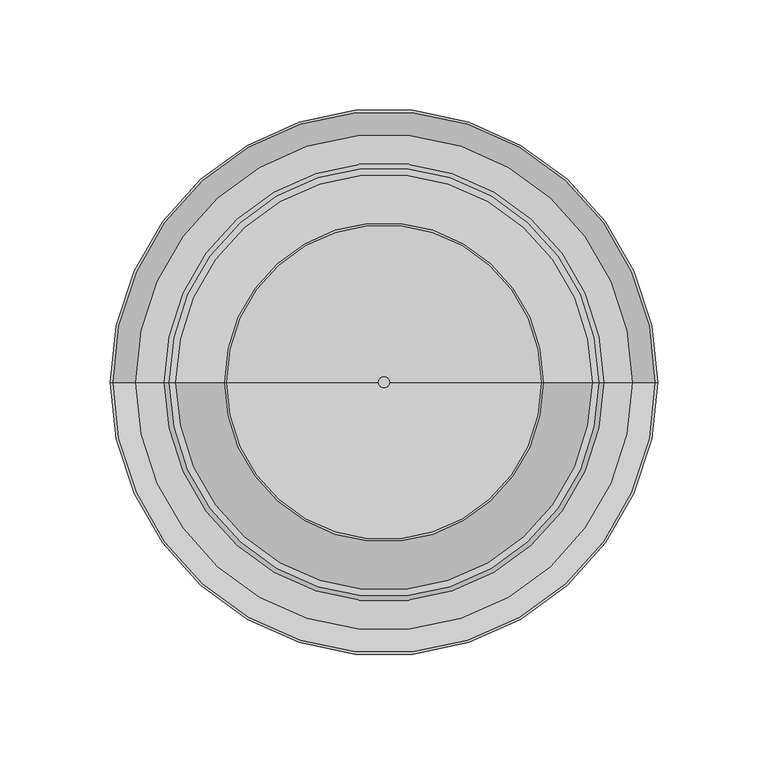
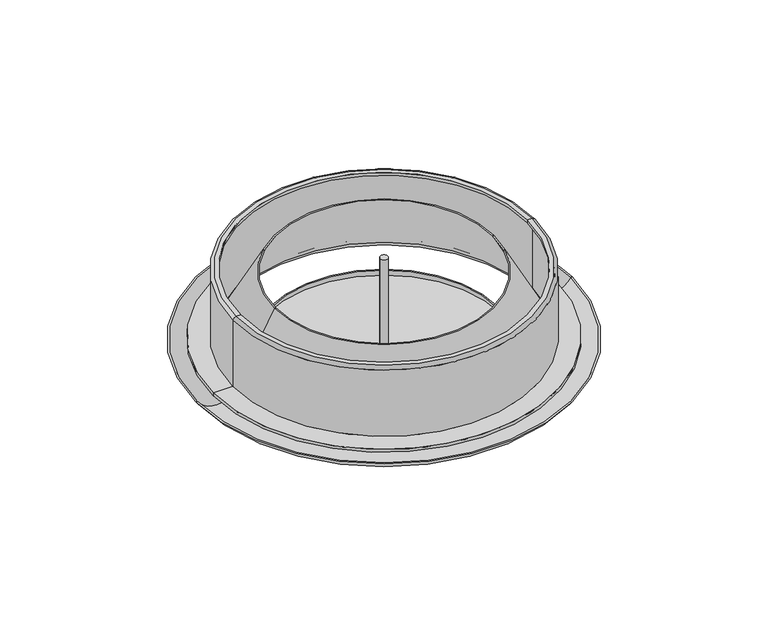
"""IFC4 building model written with IfcOpenShell, lengths in millimetres: air terminal geometry, BL_ДифузорПотолочный_Вытяжной_DVSV : BL_ДифузорПотолочный_Вытяжной_DVSV."""

from ifc_helpers import new_model, si_unit, point, frame, origin, origin_with_axes, origin_2d, place, context, project, spatial, polyline, circle_curve, ellipse_curve, trimmed, segment, composite_curve, outline, extrude, source, transform, mapped, element, save
from ifc_brep_helpers import plane_surface, cylinder_surface, revolved_surface, advanced_brep


def air_terminal_686e35e0(model_context):
    return source(origin(), model_context, "Body", "SolidModel", [
        extrude(outline(composite_curve([segment(trimmed(circle_curve(origin_2d(), 2.5), [point((-2.5, 0.0))], [point((2.5, 0.0))], False, "CARTESIAN"), True, "CONTINUOUS"), segment(trimmed(circle_curve(origin_2d(), 2.5), [point((2.5, 0.0))], [point((-2.5, 0.0))], False, "CARTESIAN"), True, "CONTINUOUS")], self_intersect=False)), frame((0.0, 0.0, -13.0), z_axis=(0.0, 0.0, 1.0), x_axis=(1.0, 0.0, 0.0)), (0.0, 0.0, 1.0), 70.0),
        advanced_brep(
        [(-75.5, 0.0, -4.0), (75.5, 0.0, -4.0), (78.5, 0.0, -10.0), (-78.5, 0.0, -10.0), (-74.5, 0.0, -4.0), (74.5, 0.0, -4.0), (-77.1443474, 0.0, -9.2886949), (77.1443474, 0.0, -9.2886949), (0.0, 0.0, -13.0), (0.0, 0.0, -14.0)],
        [
            (0, 1, circle_curve(frame((0.0, 0.0, -4.0), z_axis=(0.0, 0.0, -1.0), x_axis=(1.0, 0.0, 0.0)), 75.5)),
            (1, 2),
            (2, 3, circle_curve(frame((0.0, 0.0, -10.0), z_axis=(0.0, 0.0, 1.0), x_axis=(1.0, 0.0, 0.0)), 78.5)),
            (3, 0),
            (1, 0, circle_curve(frame((0.0, 0.0, -4.0), z_axis=(0.0, 0.0, -1.0), x_axis=(1.0, 0.0, 0.0)), 75.5)),
            (3, 2, circle_curve(frame((0.0, 0.0, -10.0), z_axis=(0.0, 0.0, 1.0), x_axis=(1.0, 0.0, 0.0)), 78.5)),
            (4, 5, circle_curve(frame((0.0, 0.0, -4.0), z_axis=(0.0, 0.0, -1.0), x_axis=(1.0, 0.0, 0.0)), 74.5)),
            (5, 1),
            (0, 4),
            (5, 4, circle_curve(frame((0.0, 0.0, -4.0), z_axis=(0.0, 0.0, -1.0), x_axis=(1.0, 0.0, 0.0)), 74.5)),
            (6, 7, circle_curve(frame((0.0, 0.0, -9.2886949), z_axis=(0.0, 0.0, -1.0), x_axis=(1.0, 0.0, 0.0)), 77.1443474)),
            (7, 5),
            (4, 6),
            (7, 6, circle_curve(frame((0.0, 0.0, -9.2886949), z_axis=(0.0, 0.0, -1.0), x_axis=(1.0, 0.0, 0.0)), 77.1443474)),
            (8, 7, circle_curve(frame((0.2171599, 0.0, 786.1149478), z_axis=(0.0, -1.0, 0.0), x_axis=(1.0, 0.0, 0.0)), 799.1149773)),
            (6, 8, circle_curve(frame((-0.2171599, 0.0, 786.1149478), z_axis=(0.0, -1.0, 0.0), x_axis=(-1.0, 0.0, 0.0)), 799.1149773)),
            (2, 9, circle_curve(frame((0.2171599, 0.0, 754.0194877), z_axis=(0.0, 1.0, 0.0), x_axis=(1.0, 0.0, 0.0)), 768.0195184)),
            (9, 3, circle_curve(frame((-0.2171599, 0.0, 754.0194877), z_axis=(0.0, 1.0, 0.0), x_axis=(-1.0, 0.0, 0.0)), 768.0195184)),
        ],
        [
            revolved_surface(polyline([(78.5, 0.0, -10.0), (75.5, 0.0, -4.0)]), (0.0, 0.0, 2831.6845746), (0.0, 0.0, 1.0)),
            plane_surface(frame((0.0, 0.0, -4.0), z_axis=(0.0, 0.0, 1.0), x_axis=(1.0, 0.0, 0.0))),
            revolved_surface(polyline([(74.5, 0.0, -4.0), (77.1443474, 0.0, -9.2886949)]), (0.0, 0.0, 2831.6845746), (0.0, 0.0, 1.0)),
            revolved_surface(trimmed(ellipse_curve(frame((0.2171599, 0.0, 786.1149478), z_axis=(0.0, 1.0, 0.0), x_axis=(1.0, 0.0, 0.0)), 799.1149773, 799.1149773), [point((77.1443474, 0.0, -9.2886949))], [point((0.0, 0.0, -13.0))], True, "CARTESIAN"), (0.0, 0.0, 2831.6845746), (0.0, 0.0, 1.0)),
            revolved_surface(trimmed(ellipse_curve(frame((0.2171599, 0.0, 754.0194877), z_axis=(0.0, -1.0, 0.0), x_axis=(1.0, 0.0, 0.0)), 768.0195184, 768.0195184), [point((0.0, 0.0, -14.0))], [point((78.5, 0.0, -10.0))], True, "CARTESIAN"), (0.0, 0.0, 2831.6845746), (0.0, 0.0, 1.0)),
        ],
        [
            (0, [[1, 2, 3, 4]]),
            (0, [[5, -4, 6, -2]]),
            (1, [[7, 8, -1, 9]]),
            (1, [[10, -9, -5, -8]]),
            (2, [[11, 12, -7, 13]]),
            (2, [[14, -13, -10, -12]]),
            (3, [[15, -11, 16]]),
            (3, [[-16, -14, -15]]),
            (4, [[-3, 17, 18]]),
            (4, [[-6, -18, -17]]),
        ],
    ),
        advanced_brep(
        [(-123.0, 0.0, 0.0), (123.0, 0.0, 0.0), (124.0, 0.0, 0.0), (-124.0, 0.0, 0.0), (-97.5, 0.0, 0.0), (97.5, 0.0, 0.0), (-72.4321616, 0.0, 47.0), (72.4321616, 0.0, 47.0), (-71.4321616, 0.0, 47.0), (71.4321616, 0.0, 47.0), (-96.5, 0.0, 0.0), (96.5, 0.0, 0.0)],
        [
            (0, 1, circle_curve(frame((0.0, 0.0, 0.0), z_axis=(0.0, 0.0, -1.0), x_axis=(1.0, 0.0, 0.0)), 123.0)),
            (1, 2),
            (2, 3, circle_curve(origin_with_axes(), 124.0)),
            (3, 0),
            (1, 0, circle_curve(frame((0.0, 0.0, 0.0), z_axis=(0.0, 0.0, -1.0), x_axis=(1.0, 0.0, 0.0)), 123.0)),
            (3, 2, circle_curve(origin_with_axes(), 124.0)),
            (4, 5, circle_curve(frame((0.0, 0.0, 0.0), z_axis=(0.0, 0.0, -1.0), x_axis=(1.0, 0.0, 0.0)), 97.5)),
            (5, 1, circle_curve(frame((110.25, 0.0, 7.9888848), z_axis=(0.0, -1.0, 0.0), x_axis=(1.0, 0.0, 0.0)), 15.0460885)),
            (0, 4, circle_curve(frame((-110.25, 0.0, 7.9888848), z_axis=(0.0, -1.0, 0.0), x_axis=(-1.0, 0.0, 0.0)), 15.0460885)),
            (5, 4, circle_curve(frame((0.0, 0.0, 0.0), z_axis=(0.0, 0.0, -1.0), x_axis=(1.0, 0.0, 0.0)), 97.5)),
            (6, 7, circle_curve(frame((0.0, 0.0, 47.0), z_axis=(0.0, 0.0, -1.0), x_axis=(1.0, 0.0, 0.0)), 72.4321616)),
            (7, 5),
            (4, 6),
            (7, 6, circle_curve(frame((0.0, 0.0, 47.0), z_axis=(0.0, 0.0, -1.0), x_axis=(1.0, 0.0, 0.0)), 72.4321616)),
            (8, 9, circle_curve(frame((0.0, 0.0, 47.0), z_axis=(0.0, 0.0, -1.0), x_axis=(1.0, 0.0, 0.0)), 71.4321616)),
            (9, 7),
            (6, 8),
            (9, 8, circle_curve(frame((0.0, 0.0, 47.0), z_axis=(0.0, 0.0, -1.0), x_axis=(1.0, 0.0, 0.0)), 71.4321616)),
            (10, 11, circle_curve(frame((0.0, 0.0, 0.0), z_axis=(0.0, 0.0, -1.0), x_axis=(1.0, 0.0, 0.0)), 96.5)),
            (11, 9),
            (8, 10),
            (11, 10, circle_curve(frame((0.0, 0.0, 0.0), z_axis=(0.0, 0.0, -1.0), x_axis=(1.0, 0.0, 0.0)), 96.5)),
            (2, 11, circle_curve(frame((110.25, 0.0, 7.5317993), z_axis=(0.0, 1.0, 0.0), x_axis=(1.0, 0.0, 0.0)), 15.6777071)),
            (10, 3, circle_curve(frame((-110.25, 0.0, 7.5317993), z_axis=(0.0, 1.0, 0.0), x_axis=(-1.0, 0.0, 0.0)), 15.6777071)),
        ],
        [
            plane_surface(origin_with_axes()),
            revolved_surface(trimmed(ellipse_curve(frame((110.25, 0.0, 7.9888848), z_axis=(0.0, 1.0, 0.0), x_axis=(1.0, 0.0, 0.0)), 15.0460885, 15.0460885), [point((123.0, 0.0, 0.0))], [point((97.5, 0.0, 0.0))], True, "CARTESIAN"), (0.0, 0.0, 2831.6845746), (0.0, 0.0, 1.0)),
            revolved_surface(polyline([(97.5, 0.0, 0.0), (72.4321616, 0.0, 47.0)]), (0.0, 0.0, 2831.6845746), (0.0, 0.0, 1.0)),
            plane_surface(frame((0.0, 0.0, 47.0), z_axis=(0.0, 0.0, 1.0), x_axis=(1.0, 0.0, 0.0))),
            revolved_surface(polyline([(71.4321616, 0.0, 47.0), (96.5, 0.0, 0.0)]), (0.0, 0.0, 2831.6845746), (0.0, 0.0, 1.0)),
            revolved_surface(trimmed(ellipse_curve(frame((110.25, 0.0, 7.5317993), z_axis=(0.0, -1.0, 0.0), x_axis=(1.0, 0.0, 0.0)), 15.6777071, 15.6777071), [point((96.5, 0.0, 0.0))], [point((124.0, 0.0, 0.0))], True, "CARTESIAN"), (0.0, 0.0, 2831.6845746), (0.0, 0.0, 1.0)),
        ],
        [
            (0, [[1, 2, 3, 4]]),
            (0, [[5, -4, 6, -2]]),
            (1, [[7, 8, -1, 9]]),
            (1, [[10, -9, -5, -8]]),
            (2, [[11, 12, -7, 13]]),
            (2, [[14, -13, -10, -12]]),
            (3, [[15, 16, -11, 17]]),
            (3, [[18, -17, -14, -16]]),
            (4, [[19, 20, -15, 21]]),
            (4, [[22, -21, -18, -20]]),
            (5, [[-3, 23, -19, 24]]),
            (5, [[-6, -24, -22, -23]]),
        ],
    ),
        advanced_brep(
        [(-99.5, 0.0, 48.0), (99.5, 0.0, 48.0), (99.5, 0.0, 2.0), (-99.5, 0.0, 2.0), (-97.5, 0.0, 50.0), (97.5, 0.0, 50.0), (-94.5, 0.0, 50.0), (94.5, 0.0, 50.0), (-94.5, 0.0, 48.0), (94.5, 0.0, 48.0), (-97.5, 0.0, 48.0), (97.5, 0.0, 48.0), (-97.5, 0.0, 2.0), (97.5, 0.0, 2.0), (-99.5, 0.0, 0.0), (99.5, 0.0, 0.0), (-112.5, 0.0, 0.0), (112.5, 0.0, 0.0), (-112.5, 0.0, 2.0), (112.5, 0.0, 2.0)],
        [
            (0, 1, circle_curve(frame((0.0, 0.0, 48.0), z_axis=(0.0, 0.0, -1.0), x_axis=(1.0, 0.0, 0.0)), 99.5)),
            (1, 2),
            (2, 3, circle_curve(frame((0.0, 0.0, 2.0), z_axis=(0.0, 0.0, 1.0), x_axis=(1.0, 0.0, 0.0)), 99.5)),
            (3, 0),
            (1, 0, circle_curve(frame((0.0, 0.0, 48.0), z_axis=(0.0, 0.0, -1.0), x_axis=(1.0, 0.0, 0.0)), 99.5)),
            (3, 2, circle_curve(frame((0.0, 0.0, 2.0), z_axis=(0.0, 0.0, 1.0), x_axis=(1.0, 0.0, 0.0)), 99.5)),
            (4, 5, circle_curve(frame((0.0, 0.0, 50.0), z_axis=(0.0, 0.0, -1.0), x_axis=(1.0, 0.0, 0.0)), 97.5)),
            (5, 1, circle_curve(frame((97.5, 0.0, 48.0), z_axis=(0.0, 1.0, 0.0), x_axis=(1.0, 0.0, 0.0)), 2.0)),
            (0, 4, circle_curve(frame((-97.5, 0.0, 48.0), z_axis=(0.0, 1.0, 0.0), x_axis=(-1.0, 0.0, 0.0)), 2.0)),
            (5, 4, circle_curve(frame((0.0, 0.0, 50.0), z_axis=(0.0, 0.0, -1.0), x_axis=(1.0, 0.0, 0.0)), 97.5)),
            (6, 7, circle_curve(frame((0.0, 0.0, 50.0), z_axis=(0.0, 0.0, -1.0), x_axis=(1.0, 0.0, 0.0)), 94.5)),
            (7, 5),
            (4, 6),
            (7, 6, circle_curve(frame((0.0, 0.0, 50.0), z_axis=(0.0, 0.0, -1.0), x_axis=(1.0, 0.0, 0.0)), 94.5)),
            (8, 9, circle_curve(frame((0.0, 0.0, 48.0), z_axis=(0.0, 0.0, -1.0), x_axis=(1.0, 0.0, 0.0)), 94.5)),
            (9, 7),
            (6, 8),
            (9, 8, circle_curve(frame((0.0, 0.0, 48.0), z_axis=(0.0, 0.0, -1.0), x_axis=(1.0, 0.0, 0.0)), 94.5)),
            (10, 11, circle_curve(frame((0.0, 0.0, 48.0), z_axis=(0.0, 0.0, -1.0), x_axis=(1.0, 0.0, 0.0)), 97.5)),
            (11, 9),
            (8, 10),
            (11, 10, circle_curve(frame((0.0, 0.0, 48.0), z_axis=(0.0, 0.0, -1.0), x_axis=(1.0, 0.0, 0.0)), 97.5)),
            (12, 13, circle_curve(frame((0.0, 0.0, 2.0), z_axis=(0.0, 0.0, -1.0), x_axis=(1.0, 0.0, 0.0)), 97.5)),
            (13, 11),
            (10, 12),
            (13, 12, circle_curve(frame((0.0, 0.0, 2.0), z_axis=(0.0, 0.0, -1.0), x_axis=(1.0, 0.0, 0.0)), 97.5)),
            (14, 15, circle_curve(frame((0.0, 0.0, 0.0), z_axis=(0.0, 0.0, -1.0), x_axis=(1.0, 0.0, 0.0)), 99.5)),
            (15, 13, circle_curve(frame((99.5, 0.0, 2.0), z_axis=(0.0, 1.0, 0.0), x_axis=(1.0, 0.0, 0.0)), 2.0)),
            (12, 14, circle_curve(frame((-99.5, 0.0, 2.0), z_axis=(0.0, 1.0, 0.0), x_axis=(-1.0, 0.0, 0.0)), 2.0)),
            (15, 14, circle_curve(frame((0.0, 0.0, 0.0), z_axis=(0.0, 0.0, -1.0), x_axis=(1.0, 0.0, 0.0)), 99.5)),
            (16, 17, circle_curve(frame((0.0, 0.0, 0.0), z_axis=(0.0, 0.0, -1.0), x_axis=(1.0, 0.0, 0.0)), 112.5)),
            (17, 15),
            (14, 16),
            (17, 16, circle_curve(frame((0.0, 0.0, 0.0), z_axis=(0.0, 0.0, -1.0), x_axis=(1.0, 0.0, 0.0)), 112.5)),
            (18, 19, circle_curve(frame((0.0, 0.0, 2.0), z_axis=(0.0, 0.0, -1.0), x_axis=(1.0, 0.0, 0.0)), 112.5)),
            (19, 17),
            (16, 18),
            (19, 18, circle_curve(frame((0.0, 0.0, 2.0), z_axis=(0.0, 0.0, -1.0), x_axis=(1.0, 0.0, 0.0)), 112.5)),
            (2, 19),
            (18, 3),
        ],
        [
            cylinder_surface(frame((0.0, 0.0, 2214.3150031), z_axis=(0.0, 0.0, 1.0), x_axis=(1.0, 0.0, 0.0)), 99.5),
            revolved_surface(trimmed(ellipse_curve(frame((97.5, 0.0, 48.0), z_axis=(0.0, -1.0, 0.0), x_axis=(1.0, 0.0, 0.0)), 2.0, 2.0), [point((99.5, 0.0, 48.0))], [point((97.5, 0.0, 50.0))], True, "CARTESIAN"), (0.0, 0.0, 2214.3150031), (0.0, 0.0, 1.0)),
            plane_surface(frame((0.0, 0.0, 50.0), z_axis=(0.0, 0.0, 1.0), x_axis=(1.0, 0.0, 0.0))),
            revolved_surface(polyline([(94.5, 0.0, 50.0), (94.5, 0.0, 48.0)]), (0.0, 0.0, 2214.3150031), (0.0, 0.0, 1.0)),
            plane_surface(frame((0.0, 0.0, 48.0), z_axis=(0.0, 0.0, -1.0), x_axis=(1.0, 0.0, 0.0))),
            revolved_surface(polyline([(97.5, 0.0, 48.0), (97.5, 0.0, 2.0)]), (0.0, 0.0, 2214.3150031), (0.0, 0.0, 1.0)),
            revolved_surface(trimmed(ellipse_curve(frame((99.5, 0.0, 2.0), z_axis=(0.0, -1.0, 0.0), x_axis=(1.0, 0.0, 0.0)), 2.0, 2.0), [point((97.5, 0.0, 2.0))], [point((99.5, 0.0, 0.0))], True, "CARTESIAN"), (0.0, 0.0, 2214.3150031), (0.0, 0.0, 1.0)),
            plane_surface(frame((0.0, 0.0, 0.0), z_axis=(0.0, 0.0, -1.0), x_axis=(1.0, 0.0, 0.0))),
            cylinder_surface(frame((0.0, 0.0, 2214.3150031), z_axis=(0.0, 0.0, 1.0), x_axis=(1.0, 0.0, 0.0)), 112.5),
            plane_surface(frame((0.0, 0.0, 2.0), z_axis=(0.0, 0.0, 1.0), x_axis=(1.0, 0.0, 0.0))),
        ],
        [
            (0, [[1, 2, 3, 4]]),
            (0, [[5, -4, 6, -2]]),
            (1, [[7, 8, -1, 9]]),
            (1, [[10, -9, -5, -8]]),
            (2, [[11, 12, -7, 13]]),
            (2, [[14, -13, -10, -12]]),
            (3, [[15, 16, -11, 17]]),
            (3, [[18, -17, -14, -16]]),
            (4, [[19, 20, -15, 21]]),
            (4, [[22, -21, -18, -20]]),
            (5, [[23, 24, -19, 25]]),
            (5, [[26, -25, -22, -24]]),
            (6, [[27, 28, -23, 29]]),
            (6, [[30, -29, -26, -28]]),
            (7, [[31, 32, -27, 33]]),
            (7, [[34, -33, -30, -32]]),
            (8, [[35, 36, -31, 37]]),
            (8, [[38, -37, -34, -36]]),
            (9, [[-3, 39, -35, 40]]),
            (9, [[-6, -40, -38, -39]]),
        ],
    ),
    ])


if __name__ == "__main__":
    model = new_model("IFC4")
    model_context = context("Model", 3, world=origin())
    ifc_project = project(units=[si_unit("LENGTHUNIT", "METRE", prefix="MILLI")], contexts=[model_context])
    site = spatial("IfcSite", under=ifc_project)
    building = spatial("IfcBuilding", under=site)
    placement = place(None, origin())
    air_terminal_shape = air_terminal_686e35e0(model_context)
    element("IfcAirTerminal", 1, ObjectType="BL_ДифузорПотолочный_Вытяжной_DVSV : BL_ДифузорПотолочный_Вытяжной_DVSV", at=placement, inside=building, context=model_context, shape_type="MappedRepresentation", body=[
        mapped(air_terminal_shape, transform((0.0, 0.0, 0.0), x_axis=(1.0, 0.0, 0.0), y_axis=(0.0, 1.0, 0.0), z_axis=(0.0, 0.0, 1.0))),
    ])
    save(model, "model.ifc")
